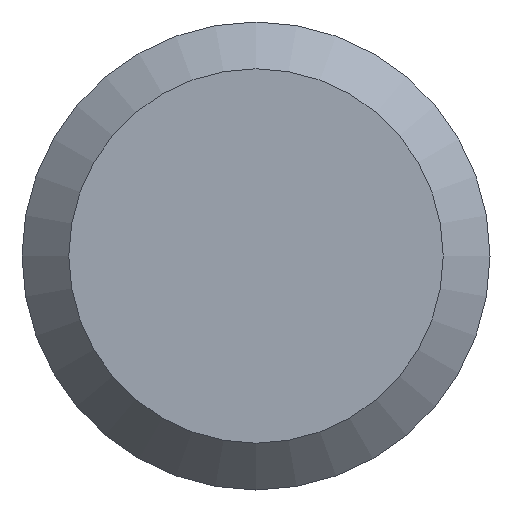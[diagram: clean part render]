
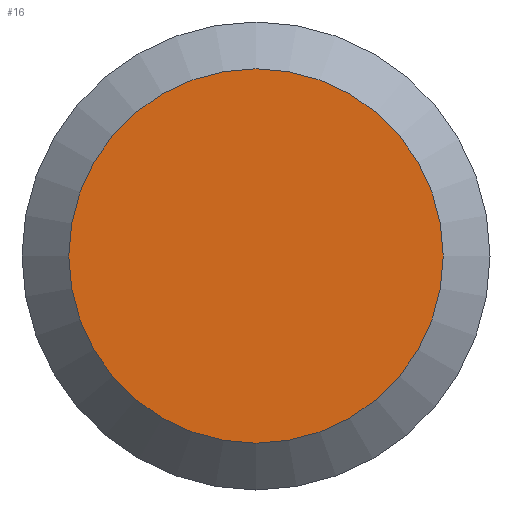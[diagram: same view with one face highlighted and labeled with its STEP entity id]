
A CAD part, left-side view. The second image highlights one B-rep face of the part: STEP entity #16.
In plain terms, the highlighted planar face has unit normal (-1, 0, 0).
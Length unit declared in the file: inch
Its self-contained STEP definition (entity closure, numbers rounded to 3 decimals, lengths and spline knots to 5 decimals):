
#10 = EDGE_CURVE ( 'NONE', #77, #77, #187, .T. ) ;
#16 = ADVANCED_FACE ( 'NONE', ( #101 ), #132, .F. ) ;
#23 = ORIENTED_EDGE ( 'NONE', *, *, #10, .T. ) ;
#74 = EDGE_LOOP ( 'NONE', ( #23 ) ) ;
#77 = VERTEX_POINT ( 'NONE', #93 ) ;
#87 = AXIS2_PLACEMENT_3D ( 'NONE', #162, #246, #197 ) ;
#93 = CARTESIAN_POINT ( 'NONE',  ( 0., 0., -0.1292 ) ) ;
#101 = FACE_OUTER_BOUND ( 'NONE', #74, .T. ) ;
#118 = DIRECTION ( 'NONE',  ( 0., 0., -1. ) ) ;
#132 = PLANE ( 'NONE',  #232 ) ;
#162 = CARTESIAN_POINT ( 'NONE',  ( 0., 0., 0. ) ) ;
#187 = CIRCLE ( 'NONE', #87, 0.1292 ) ;
#197 = DIRECTION ( 'NONE',  ( 0., 0., -1. ) ) ;
#206 = CARTESIAN_POINT ( 'NONE',  ( 0., 0.1615, 0. ) ) ;
#232 = AXIS2_PLACEMENT_3D ( 'NONE', #206, #244, #118 ) ;
#244 = DIRECTION ( 'NONE',  ( 1., 0., 0. ) ) ;
#246 = DIRECTION ( 'NONE',  ( -1., 0., 0. ) ) ;
